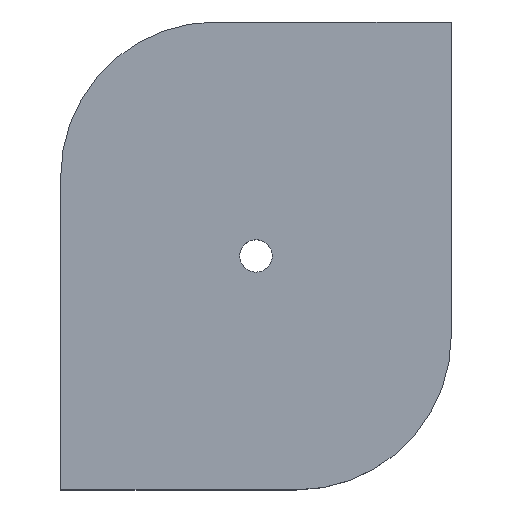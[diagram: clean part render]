
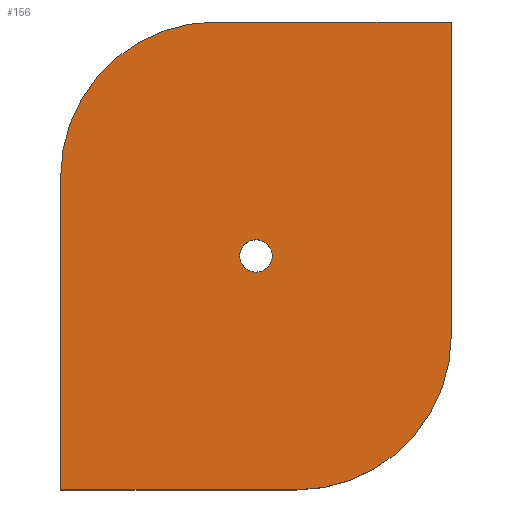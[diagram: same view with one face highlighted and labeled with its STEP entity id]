
A CAD part, top view. The second image highlights one B-rep face of the part: STEP entity #156.
In plain terms, the highlighted planar face has unit normal (0, 0, 1).
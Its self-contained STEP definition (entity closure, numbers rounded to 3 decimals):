
#63=CARTESIAN_POINT('Vertex',(46.825,62.508,16.)) ;
#77=CARTESIAN_POINT('Vertex',(54.175,58.492,16.)) ;
#80=CARTESIAN_POINT('Axis2P3D Location',(50.5,60.5,16.)) ;
#92=CARTESIAN_POINT('Axis2P3D Location',(0.,0.,16.)) ;
#97=CARTESIAN_POINT('Line Origine',(0.,40.5,16.)) ;
#101=CARTESIAN_POINT('Vertex',(0.,81.,16.)) ;
#103=CARTESIAN_POINT('Vertex',(0.,0.,16.)) ;
#106=CARTESIAN_POINT('Line Origine',(30.5,0.,16.)) ;
#110=CARTESIAN_POINT('Vertex',(61.,0.,16.)) ;
#113=CARTESIAN_POINT('Axis2P3D Location',(61.,40.,16.)) ;
#117=CARTESIAN_POINT('Vertex',(101.,40.,16.)) ;
#120=CARTESIAN_POINT('Line Origine',(101.,80.5,16.)) ;
#124=CARTESIAN_POINT('Vertex',(101.,121.,16.)) ;
#127=CARTESIAN_POINT('Line Origine',(70.5,121.,16.)) ;
#131=CARTESIAN_POINT('Vertex',(40.,121.,16.)) ;
#134=CARTESIAN_POINT('Axis2P3D Location',(40.,81.,16.)) ;
#147=CARTESIAN_POINT('Axis2P3D Location',(50.5,60.5,16.)) ;
#81=DIRECTION('Axis2P3D Direction',(0.,-0.,-1.)) ;
#93=DIRECTION('Axis2P3D Direction',(0.,0.,1.)) ;
#94=DIRECTION('Axis2P3D XDirection',(1.,0.,0.)) ;
#98=DIRECTION('Vector Direction',(0.,-1.,0.)) ;
#107=DIRECTION('Vector Direction',(1.,0.,0.)) ;
#114=DIRECTION('Axis2P3D Direction',(0.,0.,1.)) ;
#121=DIRECTION('Vector Direction',(0.,1.,0.)) ;
#128=DIRECTION('Vector Direction',(-1.,0.,0.)) ;
#135=DIRECTION('Axis2P3D Direction',(0.,0.,1.)) ;
#148=DIRECTION('Axis2P3D Direction',(0.,0.,1.)) ;
#82=AXIS2_PLACEMENT_3D('Circle Axis2P3D',#80,#81,$) ;
#95=AXIS2_PLACEMENT_3D('Plane Axis2P3D',#92,#93,#94) ;
#115=AXIS2_PLACEMENT_3D('Circle Axis2P3D',#113,#114,$) ;
#136=AXIS2_PLACEMENT_3D('Circle Axis2P3D',#134,#135,$) ;
#149=AXIS2_PLACEMENT_3D('Circle Axis2P3D',#147,#148,$) ;
#140=ORIENTED_EDGE('',*,*,#105,.T.) ;
#141=ORIENTED_EDGE('',*,*,#112,.T.) ;
#142=ORIENTED_EDGE('',*,*,#119,.F.) ;
#143=ORIENTED_EDGE('',*,*,#126,.T.) ;
#144=ORIENTED_EDGE('',*,*,#133,.T.) ;
#145=ORIENTED_EDGE('',*,*,#138,.F.) ;
#153=ORIENTED_EDGE('',*,*,#151,.F.) ;
#154=ORIENTED_EDGE('',*,*,#84,.F.) ;
#155=FACE_BOUND('',#152,.T.) ;
#99=VECTOR('Line Direction',#98,1.) ;
#108=VECTOR('Line Direction',#107,1.) ;
#122=VECTOR('Line Direction',#121,1.) ;
#129=VECTOR('Line Direction',#128,1.) ;
#156=ADVANCED_FACE('PartBody',(#146,#155),#96,.T.) ;
#83=CIRCLE('generated circle',#82,4.188) ;
#116=CIRCLE('generated circle',#115,40.) ;
#137=CIRCLE('generated circle',#136,40.) ;
#150=CIRCLE('generated circle',#149,4.188) ;
#84=EDGE_CURVE('',#78,#64,#83,.F.) ;
#105=EDGE_CURVE('',#102,#104,#100,.T.) ;
#112=EDGE_CURVE('',#104,#111,#109,.T.) ;
#119=EDGE_CURVE('',#118,#111,#116,.F.) ;
#126=EDGE_CURVE('',#118,#125,#123,.T.) ;
#133=EDGE_CURVE('',#125,#132,#130,.T.) ;
#138=EDGE_CURVE('',#102,#132,#137,.F.) ;
#151=EDGE_CURVE('',#64,#78,#150,.T.) ;
#139=EDGE_LOOP('',(#140,#141,#142,#143,#144,#145)) ;
#152=EDGE_LOOP('',(#153,#154)) ;
#146=FACE_OUTER_BOUND('',#139,.T.) ;
#100=LINE('Line',#97,#99) ;
#109=LINE('Line',#106,#108) ;
#123=LINE('Line',#120,#122) ;
#130=LINE('Line',#127,#129) ;
#96=PLANE('',#95) ;
#64=VERTEX_POINT('',#63) ;
#78=VERTEX_POINT('',#77) ;
#102=VERTEX_POINT('',#101) ;
#104=VERTEX_POINT('',#103) ;
#111=VERTEX_POINT('',#110) ;
#118=VERTEX_POINT('',#117) ;
#125=VERTEX_POINT('',#124) ;
#132=VERTEX_POINT('',#131) ;
